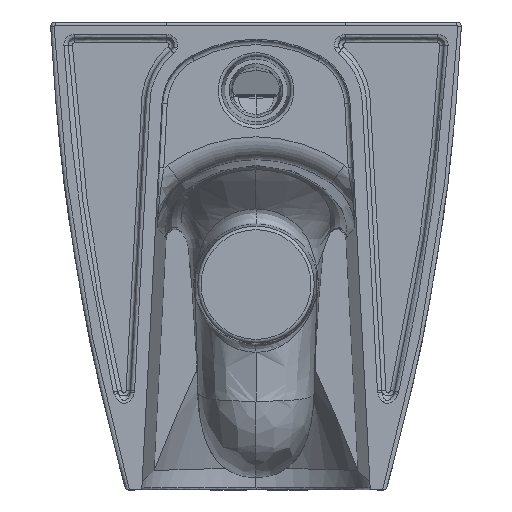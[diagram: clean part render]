
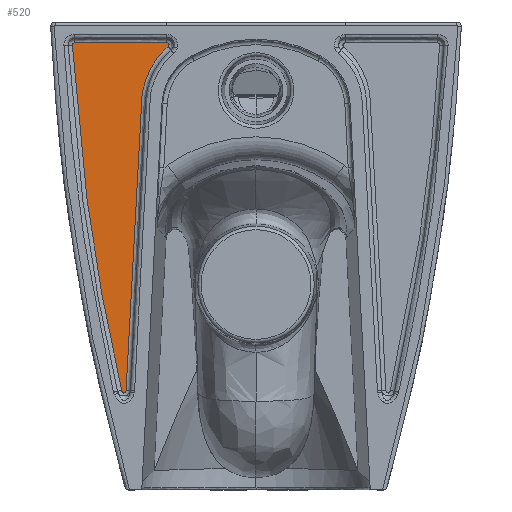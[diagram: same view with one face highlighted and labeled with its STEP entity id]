
A CAD part, left-side view. The second image highlights one B-rep face of the part: STEP entity #520.
In plain terms, the highlighted planar face has unit normal (-1, 0, 0).
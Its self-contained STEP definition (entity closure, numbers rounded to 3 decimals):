
#223=PLANE('',#5867);
#520=ADVANCED_FACE('',(#1131),#223,.F.);
#1131=FACE_OUTER_BOUND('',#1509,.T.);
#1509=EDGE_LOOP('',(#2114,#2115,#2116,#2117,#2118,#2119));
#2114=ORIENTED_EDGE('',*,*,#4440,.T.);
#2115=ORIENTED_EDGE('',*,*,#4441,.T.);
#2116=ORIENTED_EDGE('',*,*,#4442,.T.);
#2117=ORIENTED_EDGE('',*,*,#4443,.T.);
#2118=ORIENTED_EDGE('',*,*,#4444,.T.);
#2119=ORIENTED_EDGE('',*,*,#4445,.T.);
#3869=VERTEX_POINT('',#25679);
#3870=VERTEX_POINT('',#25680);
#3871=VERTEX_POINT('',#25685);
#3872=VERTEX_POINT('',#25696);
#3873=VERTEX_POINT('',#25713);
#3874=VERTEX_POINT('',#25739);
#4440=EDGE_CURVE('',#3869,#3870,#5320,.T.);
#4441=EDGE_CURVE('',#3870,#3871,#5321,.T.);
#4442=EDGE_CURVE('',#3871,#3872,#5322,.T.);
#4443=EDGE_CURVE('',#3872,#3873,#5323,.T.);
#4444=EDGE_CURVE('',#3873,#3874,#5324,.T.);
#4445=EDGE_CURVE('',#3874,#3869,#5325,.T.);
#5320=B_SPLINE_CURVE_WITH_KNOTS('',3,(#25663,#25664,#25665,#25666,#25667,
#25668,#25669,#25670,#25671,#25672,#25673,#25674,#25675,#25676,#25677,#25678),
 .UNSPECIFIED.,.F.,.F.,(4,3,3,3,3,4),(0.,0.172,0.376,
0.581,0.791,1.),.UNSPECIFIED.);
#5321=B_SPLINE_CURVE_WITH_KNOTS('',3,(#25681,#25682,#25683,#25684),
 .UNSPECIFIED.,.F.,.F.,(4,4),(0.,1.),.UNSPECIFIED.);
#5322=B_SPLINE_CURVE_WITH_KNOTS('',3,(#25686,#25687,#25688,#25689,#25690,
#25691,#25692,#25693,#25694,#25695),.UNSPECIFIED.,.F.,.F.,(4,2,2,2,4),(0.,
0.25,0.5,0.75,1.),.UNSPECIFIED.);
#5323=B_SPLINE_CURVE_WITH_KNOTS('',3,(#25697,#25698,#25699,#25700,#25701,
#25702,#25703,#25704,#25705,#25706,#25707,#25708,#25709,#25710,#25711,#25712),
 .UNSPECIFIED.,.F.,.F.,(4,2,2,2,2,2,2,4),(0.,0.5,0.75,0.813,
0.844,0.875,0.938,1.),.UNSPECIFIED.);
#5324=B_SPLINE_CURVE_WITH_KNOTS('',3,(#25714,#25715,#25716,#25717,#25718,
#25719,#25720,#25721,#25722,#25723,#25724,#25725,#25726,#25727,#25728,#25729,
#25730,#25731,#25732,#25733,#25734,#25735,#25736,#25737,#25738),
 .UNSPECIFIED.,.F.,.F.,(4,3,3,3,3,3,3,3,4),(0.,0.033,0.172,
0.3,0.422,0.549,0.69,
0.846,1.),.UNSPECIFIED.);
#5325=B_SPLINE_CURVE_WITH_KNOTS('',3,(#25740,#25741,#25742,#25743,#25744,
#25745,#25746,#25747,#25748,#25749),.UNSPECIFIED.,.F.,.F.,(4,3,3,4),(0.,
0.099,0.496,1.),.UNSPECIFIED.);
#5867=AXIS2_PLACEMENT_3D('',#25750,#6118,#6119);
#6118=DIRECTION('',(1.,0.,0.));
#6119=DIRECTION('',(0.,1.,0.));
#25663=CARTESIAN_POINT('',(5.,158.869,391.762));
#25664=CARTESIAN_POINT('',(5.,159.052,391.762));
#25665=CARTESIAN_POINT('',(5.,159.238,391.737));
#25666=CARTESIAN_POINT('',(5.,159.415,391.687));
#25667=CARTESIAN_POINT('',(5.,159.624,391.628));
#25668=CARTESIAN_POINT('',(5.,159.825,391.533));
#25669=CARTESIAN_POINT('',(5.,160.003,391.409));
#25670=CARTESIAN_POINT('',(5.,160.183,391.284));
#25671=CARTESIAN_POINT('',(5.,160.343,391.126));
#25672=CARTESIAN_POINT('',(5.,160.471,390.948));
#25673=CARTESIAN_POINT('',(5.,160.601,390.767));
#25674=CARTESIAN_POINT('',(5.,160.7,390.56));
#25675=CARTESIAN_POINT('',(5.,160.762,390.346));
#25676=CARTESIAN_POINT('',(5.,160.823,390.131));
#25677=CARTESIAN_POINT('',(5.,160.848,389.904));
#25678=CARTESIAN_POINT('',(5.,160.835,389.682));
#25679=CARTESIAN_POINT('',(5.,158.869,391.762));
#25680=CARTESIAN_POINT('',(5.,160.835,389.682));
#25681=CARTESIAN_POINT('',(5.,160.835,389.682));
#25682=CARTESIAN_POINT('',(5.,155.097,287.89));
#25683=CARTESIAN_POINT('',(5.,140.628,186.612));
#25684=CARTESIAN_POINT('',(5.,117.662,87.28));
#25685=CARTESIAN_POINT('',(5.,117.662,87.28));
#25686=CARTESIAN_POINT('',(5.,117.662,87.28));
#25687=CARTESIAN_POINT('',(5.,117.532,86.718));
#25688=CARTESIAN_POINT('',(5.,117.31,86.176));
#25689=CARTESIAN_POINT('',(5.,116.609,85.274));
#25690=CARTESIAN_POINT('',(5.,116.068,84.899));
#25691=CARTESIAN_POINT('',(5.,114.926,85.001));
#25692=CARTESIAN_POINT('',(5.,114.461,85.463));
#25693=CARTESIAN_POINT('',(5.,113.927,86.481));
#25694=CARTESIAN_POINT('',(5.,113.806,87.046));
#25695=CARTESIAN_POINT('',(5.,113.776,87.62));
#25696=CARTESIAN_POINT('',(5.,113.776,87.62));
#25697=CARTESIAN_POINT('',(5.,113.776,87.62));
#25698=CARTESIAN_POINT('',(5.,111.088,138.902));
#25699=CARTESIAN_POINT('',(5.,108.4,190.184));
#25700=CARTESIAN_POINT('',(5.,104.37,267.108));
#25701=CARTESIAN_POINT('',(5.,103.029,292.749));
#25702=CARTESIAN_POINT('',(5.,101.346,324.8));
#25703=CARTESIAN_POINT('',(5.,101.003,331.21));
#25704=CARTESIAN_POINT('',(5.,100.532,340.827));
#25705=CARTESIAN_POINT('',(5.,100.283,344.017));
#25706=CARTESIAN_POINT('',(5.,99.314,350.315));
#25707=CARTESIAN_POINT('',(5.,98.602,353.426));
#25708=CARTESIAN_POINT('',(5.,95.79,362.641));
#25709=CARTESIAN_POINT('',(5.,93.066,368.479));
#25710=CARTESIAN_POINT('',(5.,86.09,379.177));
#25711=CARTESIAN_POINT('',(5.,81.807,384.086));
#25712=CARTESIAN_POINT('',(5.,76.914,388.3));
#25713=CARTESIAN_POINT('',(5.,76.914,388.3));
#25714=CARTESIAN_POINT('',(5.,76.914,388.3));
#25715=CARTESIAN_POINT('',(5.,76.872,388.336));
#25716=CARTESIAN_POINT('',(5.,76.832,388.373));
#25717=CARTESIAN_POINT('',(5.,76.793,388.411));
#25718=CARTESIAN_POINT('',(5.,76.631,388.571));
#25719=CARTESIAN_POINT('',(5.,76.492,388.756));
#25720=CARTESIAN_POINT('',(5.,76.385,388.957));
#25721=CARTESIAN_POINT('',(5.,76.288,389.14));
#25722=CARTESIAN_POINT('',(5.,76.217,389.341));
#25723=CARTESIAN_POINT('',(5.,76.179,389.546));
#25724=CARTESIAN_POINT('',(5.,76.144,389.742));
#25725=CARTESIAN_POINT('',(5.,76.139,389.948));
#25726=CARTESIAN_POINT('',(5.,76.168,390.145));
#25727=CARTESIAN_POINT('',(5.,76.197,390.35));
#25728=CARTESIAN_POINT('',(5.,76.264,390.553));
#25729=CARTESIAN_POINT('',(5.,76.362,390.735));
#25730=CARTESIAN_POINT('',(5.,76.471,390.937));
#25731=CARTESIAN_POINT('',(5.,76.621,391.121));
#25732=CARTESIAN_POINT('',(5.,76.796,391.269));
#25733=CARTESIAN_POINT('',(5.,76.989,391.432));
#25734=CARTESIAN_POINT('',(5.,77.217,391.558));
#25735=CARTESIAN_POINT('',(5.,77.455,391.64));
#25736=CARTESIAN_POINT('',(5.,77.693,391.722));
#25737=CARTESIAN_POINT('',(5.,77.948,391.762));
#25738=CARTESIAN_POINT('',(5.,78.199,391.762));
#25739=CARTESIAN_POINT('',(5.,78.199,391.762));
#25740=CARTESIAN_POINT('',(5.,78.199,391.762));
#25741=CARTESIAN_POINT('',(5.,80.865,391.762));
#25742=CARTESIAN_POINT('',(5.,83.532,391.762));
#25743=CARTESIAN_POINT('',(5.,86.199,391.762));
#25744=CARTESIAN_POINT('',(5.,96.865,391.762));
#25745=CARTESIAN_POINT('',(5.,107.532,391.762));
#25746=CARTESIAN_POINT('',(5.,118.199,391.762));
#25747=CARTESIAN_POINT('',(5.,131.755,391.762));
#25748=CARTESIAN_POINT('',(5.,145.312,391.762));
#25749=CARTESIAN_POINT('',(5.,158.869,391.762));
#25750=CARTESIAN_POINT('',(5.,38.8,254.));
